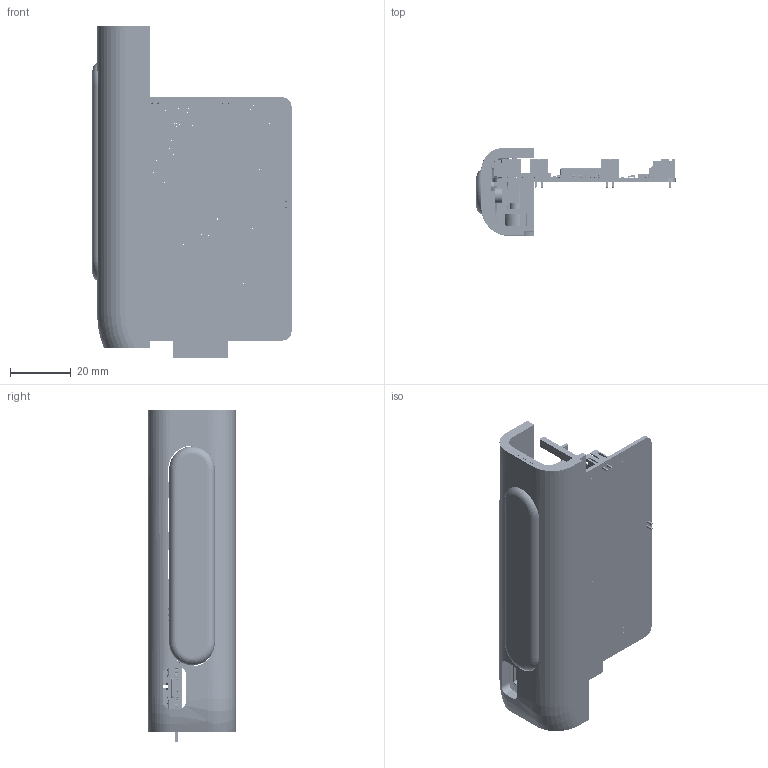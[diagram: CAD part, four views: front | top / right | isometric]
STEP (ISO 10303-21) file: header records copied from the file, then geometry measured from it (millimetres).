
FILE_DESCRIPTION(('Open CASCADE Model'),'2;1');
FILE_NAME('Open CASCADE Shape Model','2026-09-06T11:35:42',('Author'),( 'Open CASCADE'),'Open CASCADE STEP processor 7.8','build123d', 'Unknown');
FILE_SCHEMA(('AUTOMOTIVE_DESIGN { 1 0 10303 214 1 1 1 1 }'));
Length unit declared in the file: millimetre
Products named in the file (1704): ASSEMBLY; front_chassis_PA12; rear_service_cover_PA12; front_grip_skin_finegrain_cream; rear_grip_skin_finegrain_cream_INSCRIBED; ptt_cap_orange_72mm; carrier_left_ptt_fr4_handwired; ptt_pad_silicone_1; SOLID; ptt_pad_silicone_2; REF_insert_ruthex_RX-M2x4_left_carrier_-36; REF_insert_ruthex_RX-M2x4_left_carrier_+40; REF_screw_SSCF-M2-6-A2_left_carrier_-36_simplified; REF_screw_SSCF-M2-6-A2_left_carrier_+40_simplified; REF_sw_B3F-3150_ptt_lower; REF_sw_B3F-3150_ptt_upper; UNMODIFIED_SOURCE_BOARD_REFERENCE; 3DSMD_0402_1005Metric-d919a960-746f-c955-fbea-1b7ba0394ff3; 3DSMD_0603_1608Metric-b4a38289-62c0-b440-ad8d-38078632b68e; 3DSMD_0402_1005Metric-f67a8003-8022-4cca-213f-88262e58f588; 3DSMD_0805_2012Metric-d796f486-721b-8ee4-6c9f-f817c4ccdb82; ESP32-S3-WROOM-1-N8R2-ESP32-S3-WROOM-1-N8R2_3dshapes-WIRELM-SMD_
ESP32-S3-WROOM-1-e26550e8-3694-40d5-9f7c-0b9ffa9419f8; B2B-PH-K-S-LF--SN--B2B-PH-K-S-LF--SN-_3dshapes-CONN-TH_PH2_
00-LI-2P-827340b0-10e2-46db-9f57-f662a3acd58b; TSSOP-14_4_4x5mm_P0_65mm-310732ec-6f9d-2a52-f921-f19bd74fcc2a; S5B-PH-SM4-TB-LF--SN--S5B-PH-SM4-TB-LF--SN-_3dshapes-CONN-SMD_
S5B-PH-SM4-TB-LF-SN-748418ff-11bb-4f1b-a792-5fcd89f1ad8c; S3B-PH-SM4-TB-LF--SN--S3B-PH-SM4-TB-LF--SN-_3dshapes-CONN-SMD_PH2_
00-WS-3P-b12ac662-367f-495b-907a-c6886eb45302; U_FL-R-SMT-1_10_-b7201885-8c26-4f42-8768-9e48befc7bdf; SIM8066-6-1-14-01-A-b3143bda-cfda-4757-a3f3-f270ecfa78c4_stp; SHELL; 3DSMD_1206_3216Metric-a8e22f5b-0632-399f-a2e8-830354459607; MHCI05030-2R2M-R8-MHCI05030-2R2M-R8_3dshapes-IND-SMD_L5_7-W5_4-H1_
5-2f0050a8-4340-4409-aef2-16083adc7b04; TPS6282533DMQR-3f4e75b6-7a52-444a-87c2-b246e5c119b4_stp; CS3225X7R226K250NRL-CS3225X7R226K250NRL_3dshapes-C1210_L3_2-W2_5-H0_
9-7aaa5f47-6a14-4c6a-9bf6-b99dc58966ae; B5B-PH-K-S-LF--SN---3DModel-STEP-56544-3347362e-049f-4032-8aff-2a7c0fac
6a3b; LTC3113EDHD-TRPBF-LTC3113EDHD-TRPBF_3dshapes-DFN-16_L5_0-W4_0-H0_8-P0_
50-BL-EP-2b0871d8-2314-41a8-9c66-40242f059a4f; MAX98357AETE-T-a5f04008-1679-4d69-a712-effdb5294b97_stp; type-c-2p0-16pin-smt-3-or-7adefe52-b6aa-4953-90a8-9323cc6331fb; BQ24074RGTR-ed98a5d6-ee61-4387-b213-57303fdf9170; S4B-PH-SM4-TB-LF--SN--S4B-PH-SM4-TB-LF--SN-_3dshapes-CONN-SMD_PH2_
00-WS-4P-cea47690-caa9-4c36-a5c8-b6dcdebfbc0b; input_PCB
Assembly tree (1809 placements, depth 6):
  ASSEMBLY
    front_chassis_PA12
    rear_service_cover_PA12
    front_grip_skin_finegrain_cream
    rear_grip_skin_finegrain_cream_INSCRIBED
    ptt_cap_orange_72mm
    carrier_left_ptt_fr4_handwired
    ptt_pad_silicone_1
      SOLID
    ptt_pad_silicone_2
      SOLID
    REF_insert_ruthex_RX-M2x4_left_carrier_-36
      SOLID
    REF_insert_ruthex_RX-M2x4_left_carrier_+40
      SOLID
    REF_screw_SSCF-M2-6-A2_left_carrier_-36_simplified
    REF_screw_SSCF-M2-6-A2_left_carrier_+40_simplified
    REF_sw_B3F-3150_ptt_lower
      ASSEMBLY
        SOLID
        SOLID
        SOLID
        SOLID
        SOLID
        SOLID
        SOLID
    REF_sw_B3F-3150_ptt_upper
      ASSEMBLY
        SOLID
        SOLID
        SOLID
        SOLID
        SOLID
        SOLID
        SOLID
    UNMODIFIED_SOURCE_BOARD_REFERENCE
      3DSMD_0402_1005Metric-d919a960-746f-c955-fbea-1b7ba0394ff3
        SOLID
      3DSMD_0603_1608Metric-b4a38289-62c0-b440-ad8d-38078632b68e
        SOLID
      3DSMD_0402_1005Metric-f67a8003-8022-4cca-213f-88262e58f588
        SOLID
      3DSMD_0805_2012Metric-d796f486-721b-8ee4-6c9f-f817c4ccdb82
        SOLID
      ESP32-S3-WROOM-1-N8R2-ESP32-S3-WROOM-1-N8R2_3dshapes-WIRELM-SMD_
ESP32-S3-WROOM-1-e26550e8-3694-40d5-9f7c-0b9ffa9419f8
        ASSEMBLY
          SOLID
          SOLID
          SOLID
          SOLID
          SOLID
          SOLID
          SOLID
          SOLID
          SOLID
          SOLID
          SOLID
          SOLID
          SOLID
          SOLID
Bounding box: 65.5 x 28.8 x 109.25 mm (x, y, z)
Volume: 30204.7 mm3; surface area: 44578.1 mm2
Topology: 332 solids, 1697 shells, 13000 faces, 39696 edges, 28782 vertices
Faces by surface type: plane 8675, cylinder 2320, bspline 1864, torus 64, cone 42, sphere 35
Full cylindrical faces by diameter (mm): 0.3 x61, 0.375 x1, 0.5 x1, 0.6 x4, 0.75 x4, 0.813 x5, 0.9 x8, 1 x16, 1.5 x6, 1.623 x2, 2 x2, 2.074 x6, 2.9 x2, 3.03 x2, 3.2 x4, 3.8 x2, 5 x2, 7.2 x2
Entity records: 848238 total; most frequent: CARTESIAN_POINT 264502, DIRECTION 95201, LINE 65441, VECTOR 65441, ORIENTED_EDGE 55147, PCURVE 55147, DEFINITIONAL_REPRESENTATION 55147, EDGE_CURVE 32084
